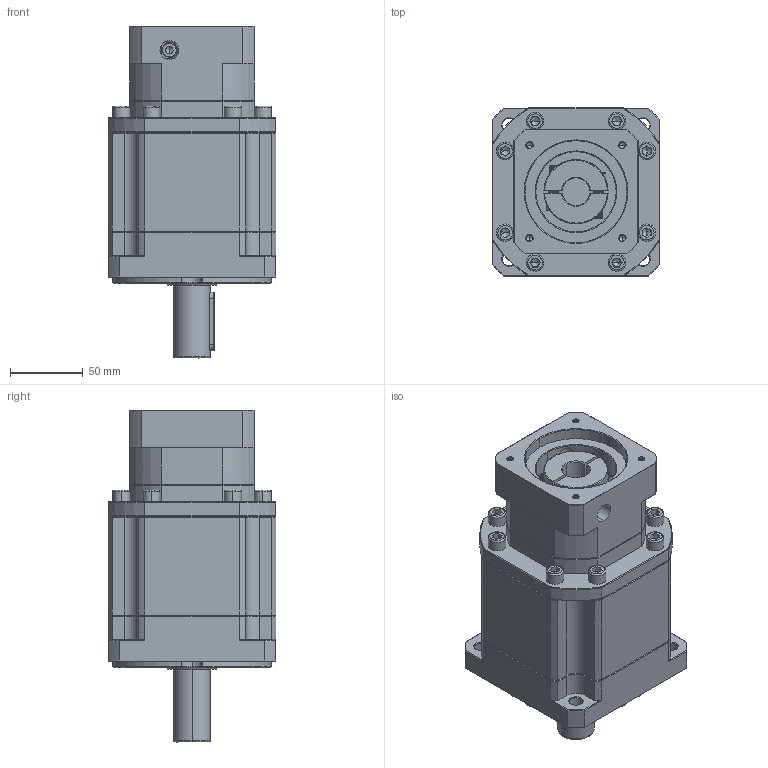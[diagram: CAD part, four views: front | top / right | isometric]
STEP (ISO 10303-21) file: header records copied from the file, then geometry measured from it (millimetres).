
FILE_DESCRIPTION (( 'STEP AP214' ), '1' );
FILE_NAME ('ZB115A-D25-L3-P2-19-70-90-M5.step', '2023-08-26T10:00:39', ( '' ), ( '' ), 'SwSTEP 2.0', 'SolidWorks 2016', '' );
FILE_SCHEMA (( 'AUTOMOTIVE_DESIGN' ));
Length unit declared in the file: millimetre
Products named in the file (1): ZB115A-D25-L3-P2-19-70-90-M5
Bounding box: 115 x 115 x 227.5 mm (x, y, z)
Volume: 1690737.6 mm3; surface area: 143476 mm2
Topology: 5 solids, 5 shells, 2381 faces, 6284 edges, 4002 vertices
Faces by surface type: plane 1180, bspline 442, cylinder 419, cone 340
Entity records: 127467 total; most frequent: CARTESIAN_POINT 46110, ORIENTED_EDGE 12492, DIRECTION 9783, EDGE_CURVE 6246, VECTOR 4021, LINE 4021, VERTEX_POINT 4002, AXIS2_PLACEMENT_3D 2881
